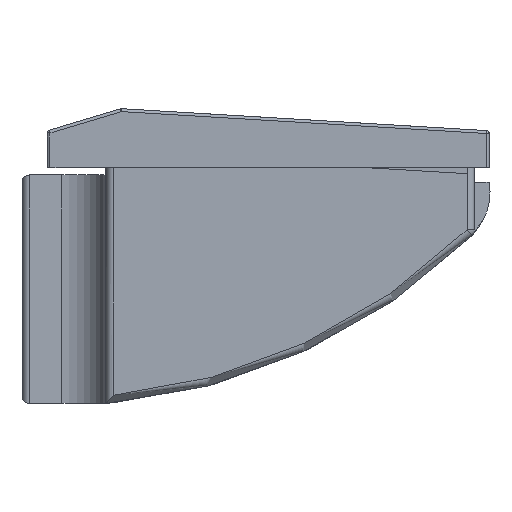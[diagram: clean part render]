
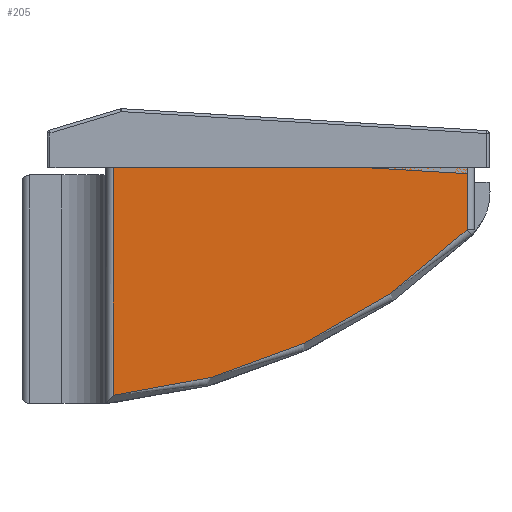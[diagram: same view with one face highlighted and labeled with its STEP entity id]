
A CAD part, left-side view. The second image highlights one B-rep face of the part: STEP entity #205.
In plain terms, the highlighted planar face has unit normal (-1, 0, 0).
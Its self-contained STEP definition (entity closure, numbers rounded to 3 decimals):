
#42 = VECTOR ( 'NONE', #2275, 1000. ) ;
#158 = EDGE_CURVE ( 'NONE', #2448, #1651, #992, .T. ) ;
#196 = VECTOR ( 'NONE', #1823, 1000. ) ;
#205 = ADVANCED_FACE ( 'NONE', ( #325 ), #815, .T. ) ;
#272 = CARTESIAN_POINT ( 'NONE',  ( -51., -13.5, -6.232 ) ) ;
#325 = FACE_OUTER_BOUND ( 'NONE', #1790, .T. ) ;
#811 = AXIS2_PLACEMENT_3D ( 'NONE', #1795, #1099, #1783 ) ;
#815 = PLANE ( 'NONE',  #1835 ) ;
#952 = CARTESIAN_POINT ( 'NONE',  ( -51., -13.5, -2. ) ) ;
#992 = CIRCLE ( 'NONE', #811, 39.5 ) ;
#1002 = EDGE_CURVE ( 'NONE', #2473, #2448, #1638, .T. ) ;
#1016 = CARTESIAN_POINT ( 'NONE',  ( -51., 10.5, -17.454 ) ) ;
#1099 = DIRECTION ( 'NONE',  ( -1., 0., 0. ) ) ;
#1230 = LINE ( 'NONE', #2514, #42 ) ;
#1234 = VERTEX_POINT ( 'NONE', #952 ) ;
#1243 = DIRECTION ( 'NONE',  ( 0., 0., 1. ) ) ;
#1571 = ORIENTED_EDGE ( 'NONE', *, *, #158, .T. ) ;
#1595 = CARTESIAN_POINT ( 'NONE',  ( -51., -13.5, -2. ) ) ;
#1638 = LINE ( 'NONE', #1845, #2808 ) ;
#1651 = VERTEX_POINT ( 'NONE', #272 ) ;
#1783 = DIRECTION ( 'NONE',  ( 0., 0., 1. ) ) ;
#1790 = EDGE_LOOP ( 'NONE', ( #1571, #2092, #2160, #2353 ) ) ;
#1791 = EDGE_CURVE ( 'NONE', #1651, #1234, #1971, .T. ) ;
#1795 = CARTESIAN_POINT ( 'NONE',  ( -51., 14.262, 21.867 ) ) ;
#1823 = DIRECTION ( 'NONE',  ( 0., 0., 1. ) ) ;
#1835 = AXIS2_PLACEMENT_3D ( 'NONE', #2784, #2385, #1243 ) ;
#1845 = CARTESIAN_POINT ( 'NONE',  ( -51., 10.5, -18. ) ) ;
#1971 = LINE ( 'NONE', #1595, #196 ) ;
#2092 = ORIENTED_EDGE ( 'NONE', *, *, #1791, .T. ) ;
#2160 = ORIENTED_EDGE ( 'NONE', *, *, #2311, .F. ) ;
#2275 = DIRECTION ( 'NONE',  ( 0., -1., 0. ) ) ;
#2311 = EDGE_CURVE ( 'NONE', #2473, #1234, #1230, .T. ) ;
#2353 = ORIENTED_EDGE ( 'NONE', *, *, #1002, .T. ) ;
#2385 = DIRECTION ( 'NONE',  ( -1., 0., 0. ) ) ;
#2448 = VERTEX_POINT ( 'NONE', #1016 ) ;
#2473 = VERTEX_POINT ( 'NONE', #2609 ) ;
#2514 = CARTESIAN_POINT ( 'NONE',  ( -51., 11., -2. ) ) ;
#2609 = CARTESIAN_POINT ( 'NONE',  ( -51., 10.5, -2. ) ) ;
#2767 = DIRECTION ( 'NONE',  ( 0., 0., -1. ) ) ;
#2784 = CARTESIAN_POINT ( 'NONE',  ( -51., 14.262, 21.867 ) ) ;
#2808 = VECTOR ( 'NONE', #2767, 1000. ) ;
